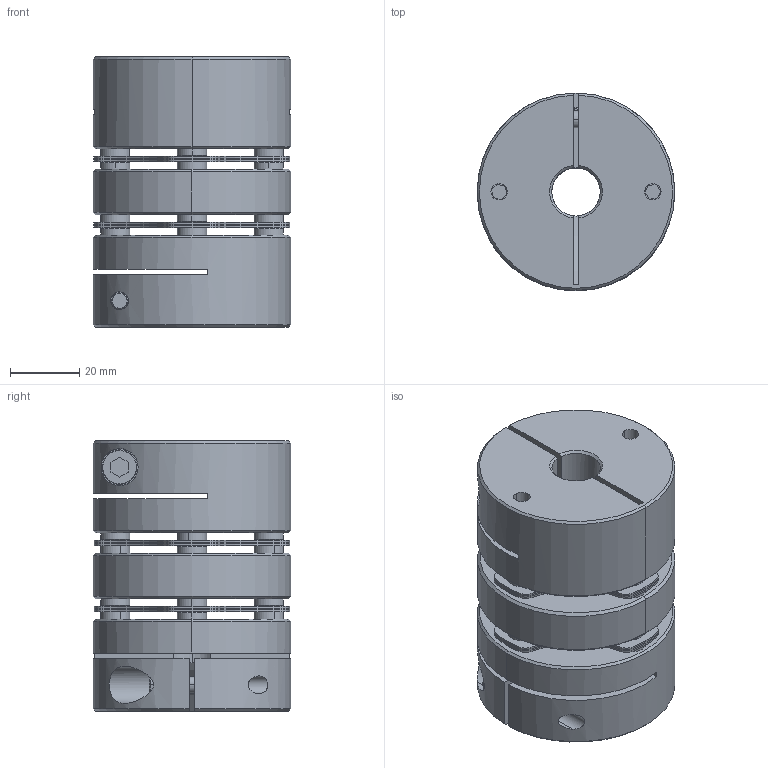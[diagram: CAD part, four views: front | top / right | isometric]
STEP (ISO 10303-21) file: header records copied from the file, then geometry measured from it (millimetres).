
FILE_DESCRIPTION (( 'STEP AP214' ), '1' );
FILE_NAME ('Ruland_MDCDE57-14-14-A.step', '2017-08-22T08:12:49', ( '' ), ( '' ), 'SwSTEP 2.0', 'SolidWorks 2017', '' );
FILE_SCHEMA (( 'AUTOMOTIVE_DESIGN' ));
Length unit declared in the file: inch
Products named in the file (6): Disc Spring 2,250 OD_Disc Spring 2,250 OD rev A; Metric Socket Head Cap Screws 1a_CFM5_10; Center Disc 2,250; MDCH57-x-A A_MDCH57-14-A; Ruland_MDCDE57-14-14-A; Metric Socket Head Cap Screws 1a_CFM6_18
Assembly tree (19 placements, depth 2):
  Ruland_MDCDE57-14-14-A
    MDCH57-x-A A_MDCH57-14-A  x2
    Center Disc 2,250
    Disc Spring 2,250 OD_Disc Spring 2,250 OD rev A  x6
    Metric Socket Head Cap Screws 1a_CFM5_10  x8
    Metric Socket Head Cap Screws 1a_CFM6_18  x2
Bounding box: 57.15 x 57.15 x 78.23 mm (x, y, z)
Volume: 142984.9 mm3; surface area: 59187.7 mm2
Topology: 19 solids, 19 shells, 546 faces, 1330 edges, 852 vertices
Faces by surface type: cylinder 300, plane 154, cone 92
Entity records: 6723 total; most frequent: CARTESIAN_POINT 1089, DIRECTION 1087, ORIENTED_EDGE 882, AXIS2_PLACEMENT_3D 446, EDGE_CURVE 441, VERTEX_POINT 282, EDGE_LOOP 243, CIRCLE 236
